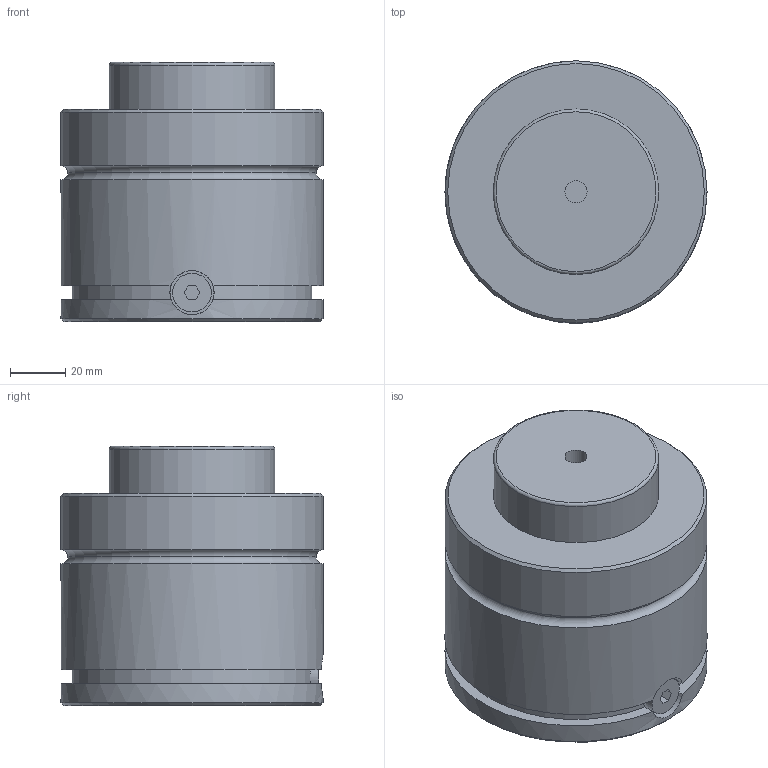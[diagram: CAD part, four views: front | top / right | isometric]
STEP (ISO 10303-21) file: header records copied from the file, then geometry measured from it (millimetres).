
FILE_DESCRIPTION(('FreeCAD Model'),'2;1');
FILE_NAME('Open CASCADE Shape Model','2024-11-12T09:46:03',('Author'),( ''),'Open CASCADE STEP processor 7.6','FreeCAD','Unknown');
FILE_SCHEMA(('AUTOMOTIVE_DESIGN { 1 0 10303 214 1 1 1 1 }'));
Length unit declared in the file: millimetre
Products named in the file (7): Unnamed; Part001; MICRO 95x018; Part010; Cut003; Part012; Cut
Assembly tree (6 placements, depth 3):
  Unnamed
    Part001
      MICRO 95x018
    Part010
      Cut003
    Part012
      Cut
Bounding box: 95 x 95 x 94 mm (x, y, z)
Volume: 582453.3 mm3; surface area: 50869.5 mm2
Topology: 3 solids, 3 shells, 45 faces, 88 edges, 56 vertices
Faces by surface type: plane 22, cylinder 16, cone 4, torus 3
Full cylindrical faces by diameter (mm): 8 x5, 16 x1, 60 x1, 95 x3
Entity records: 1511 total; most frequent: CARTESIAN_POINT 417, DIRECTION 225, ORIENTED_EDGE 176, AXIS2_PLACEMENT_3D 92, EDGE_CURVE 88, VERTEX_POINT 56, FACE_BOUND 52, EDGE_LOOP 52
